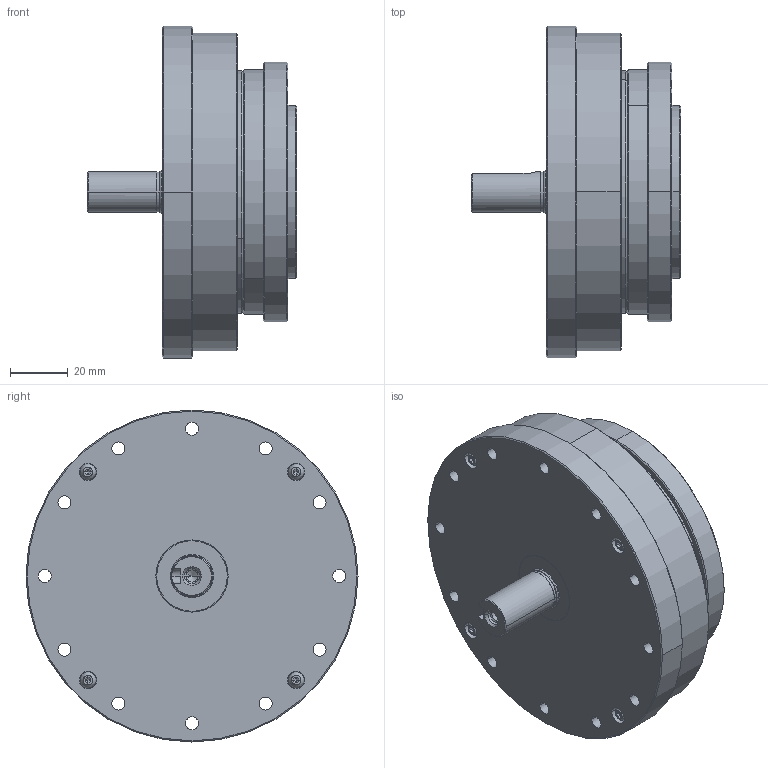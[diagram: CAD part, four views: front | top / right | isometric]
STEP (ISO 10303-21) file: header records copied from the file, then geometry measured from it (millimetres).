
FILE_DESCRIPTION (( 'STEP AP203' ), '1' );
FILE_NAME ('LHS-25-XXX-C-IV.step', '2025-01-07T06:19:01', ( '' ), ( '' ), 'SwSTEP 2.0', 'SolidWorks 2023', '' );
FILE_SCHEMA (( 'CONFIG_CONTROL_DESIGN' ));
Length unit declared in the file: metre
Products named in the file (1): LHS-25-XXX-C-IV
Bounding box: 72.5 x 115 x 115 mm (x, y, z)
Volume: 259040.3 mm3; surface area: 174104.8 mm2
Topology: 60 solids, 60 shells, 1703 faces, 4408 edges, 2713 vertices
Faces by surface type: cylinder 614, plane 481, bspline 338, cone 270
Entity records: 60262 total; most frequent: CARTESIAN_POINT 19841, DIRECTION 8505, ORIENTED_EDGE 8448, EDGE_CURVE 4224, AXIS2_PLACEMENT_3D 3533, VERTEX_POINT 2713, CIRCLE 2167, EDGE_LOOP 2077
